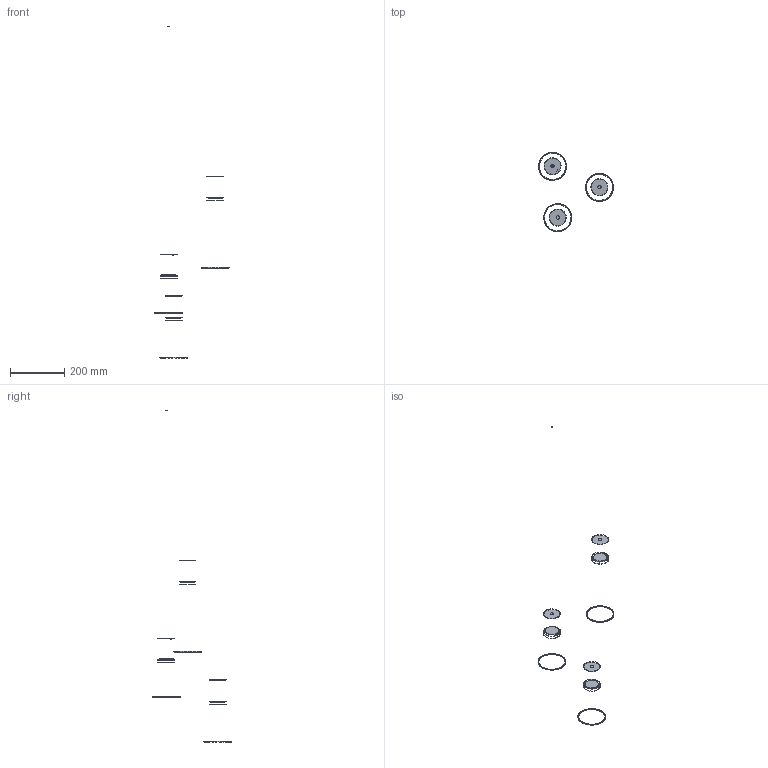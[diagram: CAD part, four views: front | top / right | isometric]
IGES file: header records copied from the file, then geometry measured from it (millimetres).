
Start section: SolidWorks IGES file using analytic representation for surfaces
Global section: file name: X:\PRODUKT\Modele 3D_WWW\_KOLEKCJE WWW\PICO\8863\PICO-8863.IGS; native system: SolidWorks 2021; preprocessor: SolidWorks 2021; author: gabriela.tworek; date: 220901.110304; units: millimetre
Bounding box: 276.75 x 292.54 x 1229.22 mm (x, y, z)
Surface area: 1312193.5 mm2 (no closed solid volume)
Topology: 0 solids, 0 shells, 717 faces, 3682 edges, 4029 vertices
Faces by surface type: revolution 495, bspline 222
